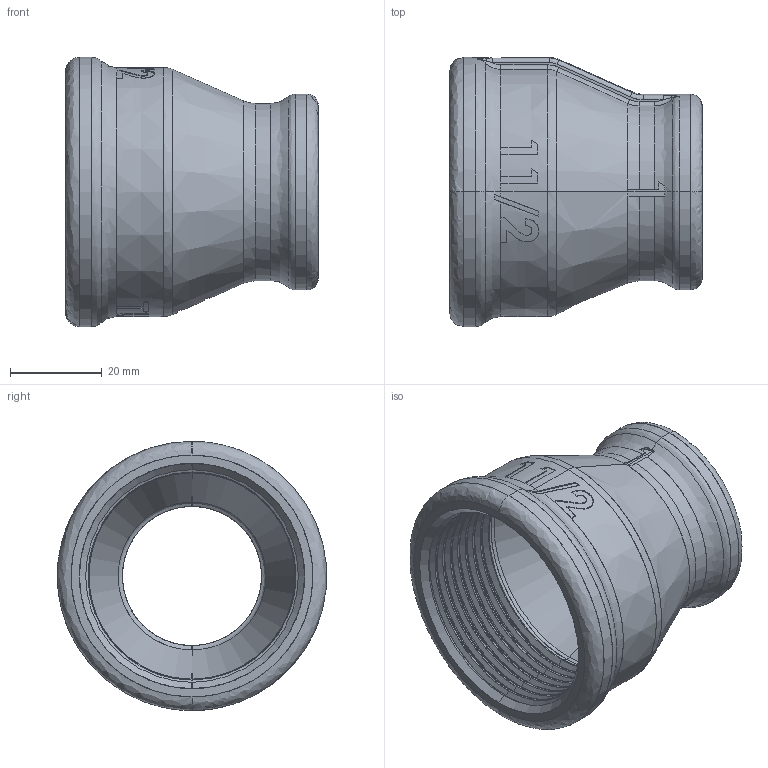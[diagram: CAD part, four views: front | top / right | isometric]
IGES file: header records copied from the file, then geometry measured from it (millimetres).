
Start section: SolidWorks IGES file using analytic representation for surfaces
Global section: file name: C:\Users\Joel Rosa\Desktop\Tubulação\12-32-OK\12-32-041.IGS; native system: SolidWorks 2011; preprocessor: SolidWorks 2011; author: Joel Rosa; date: 121208.225210; units: millimetre
Bounding box: 55 x 58.6 x 58.6 mm (x, y, z)
Surface area: 20292.4 mm2 (no closed solid volume)
Topology: 0 solids, 0 shells, 363 faces, 3011 edges, 3010 vertices
Faces by surface type: bspline 253, revolution 110
